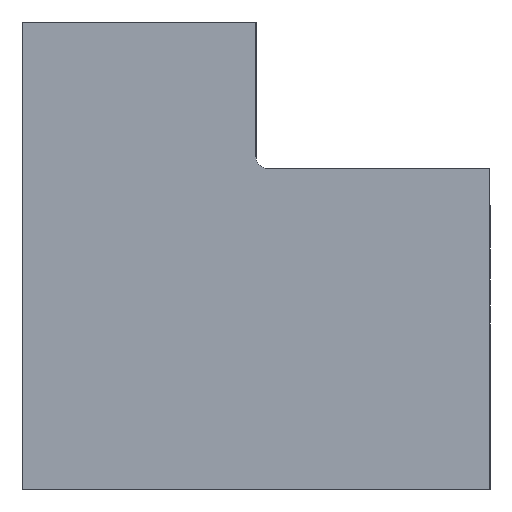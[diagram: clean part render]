
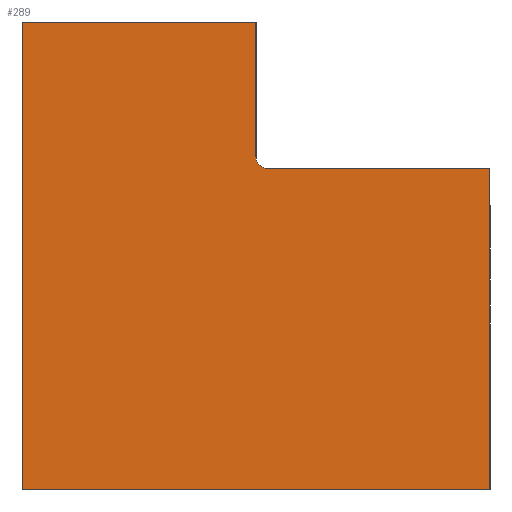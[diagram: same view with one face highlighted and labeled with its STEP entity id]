
A CAD part, left-side view. The second image highlights one B-rep face of the part: STEP entity #289.
In plain terms, the highlighted planar face has unit normal (-1, 0, 0).
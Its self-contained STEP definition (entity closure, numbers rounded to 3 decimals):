
#20=CIRCLE('',#315,0.4);
#82=ORIENTED_EDGE('',*,*,#107,.F.);
#83=ORIENTED_EDGE('',*,*,#132,.F.);
#84=ORIENTED_EDGE('',*,*,#126,.F.);
#85=ORIENTED_EDGE('',*,*,#123,.F.);
#86=ORIENTED_EDGE('',*,*,#117,.F.);
#87=ORIENTED_EDGE('',*,*,#114,.T.);
#88=ORIENTED_EDGE('',*,*,#111,.F.);
#107=EDGE_CURVE('',#140,#141,#166,.T.);
#111=EDGE_CURVE('',#141,#144,#170,.T.);
#114=EDGE_CURVE('',#146,#144,#20,.T.);
#117=EDGE_CURVE('',#146,#148,#174,.T.);
#123=EDGE_CURVE('',#148,#153,#177,.T.);
#126=EDGE_CURVE('',#153,#155,#180,.T.);
#132=EDGE_CURVE('',#155,#140,#183,.T.);
#140=VERTEX_POINT('',#432);
#141=VERTEX_POINT('',#433);
#144=VERTEX_POINT('',#441);
#146=VERTEX_POINT('',#447);
#148=VERTEX_POINT('',#453);
#153=VERTEX_POINT('',#465);
#155=VERTEX_POINT('',#471);
#166=LINE('',#431,#185);
#170=LINE('',#440,#189);
#174=LINE('',#452,#193);
#177=LINE('',#464,#196);
#180=LINE('',#470,#199);
#183=LINE('',#482,#202);
#185=VECTOR('',#348,1000.);
#189=VECTOR('',#354,1000.);
#193=VECTOR('',#366,1000.);
#196=VECTOR('',#377,1000.);
#199=VECTOR('',#382,1000.);
#202=VECTOR('',#393,1000.);
#218=EDGE_LOOP('',(#82,#83,#84,#85,#86,#87,#88));
#251=FACE_BOUND('',#218,.T.);
#277=PLANE('',#328);
#289=ADVANCED_FACE('',(#251),#277,.F.);
#315=AXIS2_PLACEMENT_3D('',#446,#359,#360);
#328=AXIS2_PLACEMENT_3D('',#485,#397,#398);
#348=DIRECTION('',(0.,-1.,0.));
#354=DIRECTION('',(0.,0.,-1.));
#359=DIRECTION('',(1.,0.,0.));
#360=DIRECTION('',(0.,0.,-1.));
#366=DIRECTION('',(0.,-1.,0.));
#377=DIRECTION('',(0.,0.,-1.));
#382=DIRECTION('',(0.,1.,0.));
#393=DIRECTION('',(0.,0.,1.));
#397=DIRECTION('',(1.,0.,0.));
#398=DIRECTION('',(0.,0.,-1.));
#431=CARTESIAN_POINT('',(-40.,16.,16.));
#432=CARTESIAN_POINT('',(-40.,16.,16.));
#433=CARTESIAN_POINT('',(-40.,8.,16.));
#440=CARTESIAN_POINT('',(-40.,8.,16.));
#441=CARTESIAN_POINT('',(-40.,8.,11.4));
#446=CARTESIAN_POINT('',(-40.,7.6,11.4));
#447=CARTESIAN_POINT('',(-40.,7.6,11.));
#452=CARTESIAN_POINT('',(-40.,7.6,11.));
#453=CARTESIAN_POINT('',(-40.,0.,11.));
#464=CARTESIAN_POINT('',(-40.,0.,11.));
#465=CARTESIAN_POINT('',(-40.,0.,0.));
#470=CARTESIAN_POINT('',(-40.,0.,0.));
#471=CARTESIAN_POINT('',(-40.,16.,0.));
#482=CARTESIAN_POINT('',(-40.,16.,0.));
#485=CARTESIAN_POINT('',(-40.,7.6,11.4));
